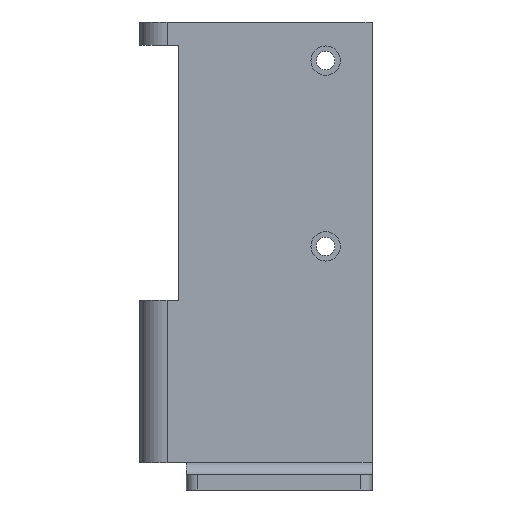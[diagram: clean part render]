
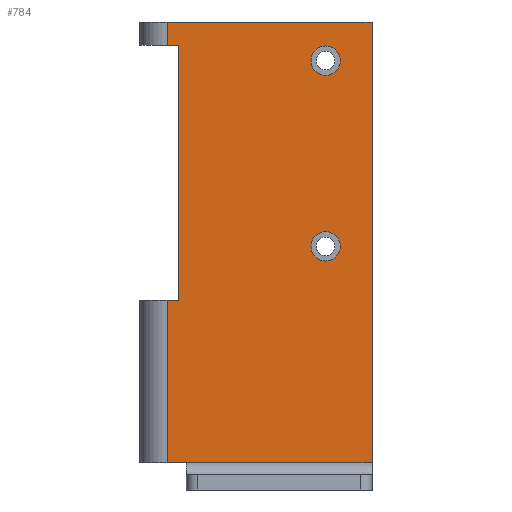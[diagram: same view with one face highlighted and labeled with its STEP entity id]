
A CAD part, front view. The second image highlights one B-rep face of the part: STEP entity #784.
In plain terms, the highlighted planar face has unit normal (0, -1, 0).
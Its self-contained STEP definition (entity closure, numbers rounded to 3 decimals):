
#141=CARTESIAN_POINT('',(25.3,1.7,17.));
#142=VERTEX_POINT('',#141);
#151=CARTESIAN_POINT('',(21.5,1.7,17.));
#152=VERTEX_POINT('',#151);
#153=CARTESIAN_POINT('',(23.4,1.7,17.));
#154=DIRECTION('',(0.0,1.0,0.0));
#155=DIRECTION('',(1.0,0.0,0.0));
#156=AXIS2_PLACEMENT_3D('',#153,#154,#155);
#157=CIRCLE('',#156,1.9);
#158=EDGE_CURVE('',#152,#142,#157,.T.);
#225=CARTESIAN_POINT('',(25.3,1.7,-7.));
#226=VERTEX_POINT('',#225);
#235=CARTESIAN_POINT('',(21.5,1.7,-7.));
#236=VERTEX_POINT('',#235);
#237=CARTESIAN_POINT('',(23.4,1.7,-7.));
#238=DIRECTION('',(0.0,1.0,0.0));
#239=DIRECTION('',(1.0,0.0,0.0));
#240=AXIS2_PLACEMENT_3D('',#237,#238,#239);
#241=CIRCLE('',#240,1.9);
#242=EDGE_CURVE('',#236,#226,#241,.T.);
#573=CARTESIAN_POINT('',(5.4,1.7,-35.0));
#574=VERTEX_POINT('',#573);
#581=CARTESIAN_POINT('',(2.9,1.7,-35.0));
#582=VERTEX_POINT('',#581);
#583=CARTESIAN_POINT('',(5.4,1.7,-35.0));
#584=DIRECTION('',(-1.0,0.0,0.0));
#585=VECTOR('',#584,2.5);
#586=LINE('',#583,#585);
#587=EDGE_CURVE('',#574,#582,#586,.T.);
#606=CARTESIAN_POINT('',(2.9,1.7,-14.0));
#607=VERTEX_POINT('',#606);
#608=CARTESIAN_POINT('',(2.9,1.7,-35.0));
#609=DIRECTION('',(0.0,0.0,1.0));
#610=VECTOR('',#609,21.0);
#611=LINE('',#608,#610);
#612=EDGE_CURVE('',#582,#607,#611,.T.);
#633=CARTESIAN_POINT('',(4.4,1.7,-14.0));
#634=VERTEX_POINT('',#633);
#635=CARTESIAN_POINT('',(4.4,1.7,-14.0));
#636=DIRECTION('',(-1.0,0.0,0.0));
#637=VECTOR('',#636,1.5);
#638=LINE('',#635,#637);
#639=EDGE_CURVE('',#634,#607,#638,.T.);
#708=CARTESIAN_POINT('',(29.4,1.7,-35.0));
#709=DIRECTION('',(0.0,-1.0,0.0));
#710=DIRECTION('',(0.0,0.0,-1.0));
#711=AXIS2_PLACEMENT_3D('',#708,#709,#710);
#712=PLANE('',#711);
#713=ORIENTED_EDGE('',*,*,#612,.F.);
#714=ORIENTED_EDGE('',*,*,#587,.F.);
#715=CARTESIAN_POINT('',(29.4,1.7,-35.0));
#716=VERTEX_POINT('',#715);
#717=CARTESIAN_POINT('',(29.4,1.7,-35.0));
#718=DIRECTION('',(-1.0,0.0,0.0));
#719=VECTOR('',#718,24.0);
#720=LINE('',#717,#719);
#721=EDGE_CURVE('',#716,#574,#720,.T.);
#722=ORIENTED_EDGE('',*,*,#721,.F.);
#723=CARTESIAN_POINT('',(29.4,1.7,22.0));
#724=VERTEX_POINT('',#723);
#725=CARTESIAN_POINT('',(29.4,1.7,22.0));
#726=DIRECTION('',(0.0,0.0,-1.0));
#727=VECTOR('',#726,57.0);
#728=LINE('',#725,#727);
#729=EDGE_CURVE('',#724,#716,#728,.T.);
#730=ORIENTED_EDGE('',*,*,#729,.F.);
#731=CARTESIAN_POINT('',(2.9,1.7,22.0));
#732=VERTEX_POINT('',#731);
#733=CARTESIAN_POINT('',(29.4,1.7,22.0));
#734=DIRECTION('',(-1.0,0.0,0.0));
#735=VECTOR('',#734,26.5);
#736=LINE('',#733,#735);
#737=EDGE_CURVE('',#724,#732,#736,.T.);
#738=ORIENTED_EDGE('',*,*,#737,.T.);
#739=CARTESIAN_POINT('',(2.9,1.7,19.0));
#740=VERTEX_POINT('',#739);
#741=CARTESIAN_POINT('',(2.9,1.7,19.0));
#742=DIRECTION('',(0.0,0.0,1.0));
#743=VECTOR('',#742,3.0);
#744=LINE('',#741,#743);
#745=EDGE_CURVE('',#740,#732,#744,.T.);
#746=ORIENTED_EDGE('',*,*,#745,.F.);
#747=CARTESIAN_POINT('',(4.4,1.7,19.0));
#748=VERTEX_POINT('',#747);
#749=CARTESIAN_POINT('',(2.9,1.7,19.0));
#750=DIRECTION('',(1.0,0.0,0.0));
#751=VECTOR('',#750,1.5);
#752=LINE('',#749,#751);
#753=EDGE_CURVE('',#740,#748,#752,.T.);
#754=ORIENTED_EDGE('',*,*,#753,.T.);
#755=CARTESIAN_POINT('',(4.4,1.7,19.0));
#756=DIRECTION('',(0.0,0.0,-1.0));
#757=VECTOR('',#756,33.0);
#758=LINE('',#755,#757);
#759=EDGE_CURVE('',#748,#634,#758,.T.);
#760=ORIENTED_EDGE('',*,*,#759,.T.);
#761=ORIENTED_EDGE('',*,*,#639,.T.);
#762=EDGE_LOOP('',(#713,#714,#722,#730,#738,#746,#754,#760,#761));
#763=FACE_OUTER_BOUND('',#762,.T.);
#764=CARTESIAN_POINT('',(23.4,1.7,-7.));
#765=DIRECTION('',(0.0,1.0,0.0));
#766=DIRECTION('',(1.0,0.0,0.0));
#767=AXIS2_PLACEMENT_3D('',#764,#765,#766);
#768=CIRCLE('',#767,1.9);
#769=EDGE_CURVE('',#226,#236,#768,.T.);
#770=ORIENTED_EDGE('',*,*,#769,.T.);
#771=ORIENTED_EDGE('',*,*,#242,.T.);
#772=EDGE_LOOP('',(#770,#771));
#773=FACE_BOUND('',#772,.T.);
#774=CARTESIAN_POINT('',(23.4,1.7,17.));
#775=DIRECTION('',(0.0,1.0,0.0));
#776=DIRECTION('',(1.0,0.0,0.0));
#777=AXIS2_PLACEMENT_3D('',#774,#775,#776);
#778=CIRCLE('',#777,1.9);
#779=EDGE_CURVE('',#142,#152,#778,.T.);
#780=ORIENTED_EDGE('',*,*,#779,.T.);
#781=ORIENTED_EDGE('',*,*,#158,.T.);
#782=EDGE_LOOP('',(#780,#781));
#783=FACE_BOUND('',#782,.T.);
#784=ADVANCED_FACE('',(#763,#773,#783),#712,.T.);
